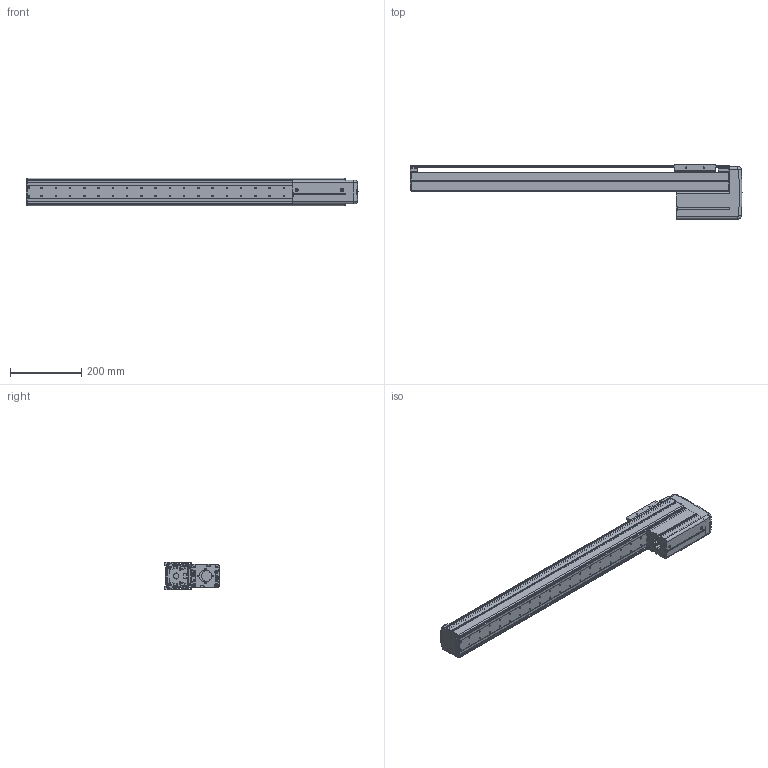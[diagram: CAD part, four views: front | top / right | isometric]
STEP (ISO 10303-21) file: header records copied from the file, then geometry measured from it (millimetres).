
FILE_DESCRIPTION((''),'2;1');
FILE_NAME('BE10E-UU-M_N-70_IGS_PRT','2017-06-17T',(' '),(''),'PRO/ENGINEER BY PARAMETRIC TECHNOLOGY CORPORATION, 2015030','PRO/ENGINEER BY PARAMETRIC TECHNOLOGY CORPORATION, 2015030','');
FILE_SCHEMA(('CONFIG_CONTROL_DESIGN'));
Length unit declared in the file: millimetre
Products named in the file (1): BE10E-UU-M_N-70_IGS_PRT
Bounding box: 932 x 153 x 78 mm (x, y, z)
Volume: 1356402.2 mm3; surface area: 918984.1 mm2
Topology: 2 solids, 119 shells, 1827 faces, 4942 edges, 3210 vertices
Faces by surface type: cylinder 881, plane 718, cone 81, torus 71, sphere 44, bspline 32
Entity records: 59774 total; most frequent: CARTESIAN_POINT 12598, DIRECTION 10234, ORIENTED_EDGE 9366, EDGE_CURVE 4906, AXIS2_PLACEMENT_3D 3824, VERTEX_POINT 3210, VECTOR 2586, LINE 2586
